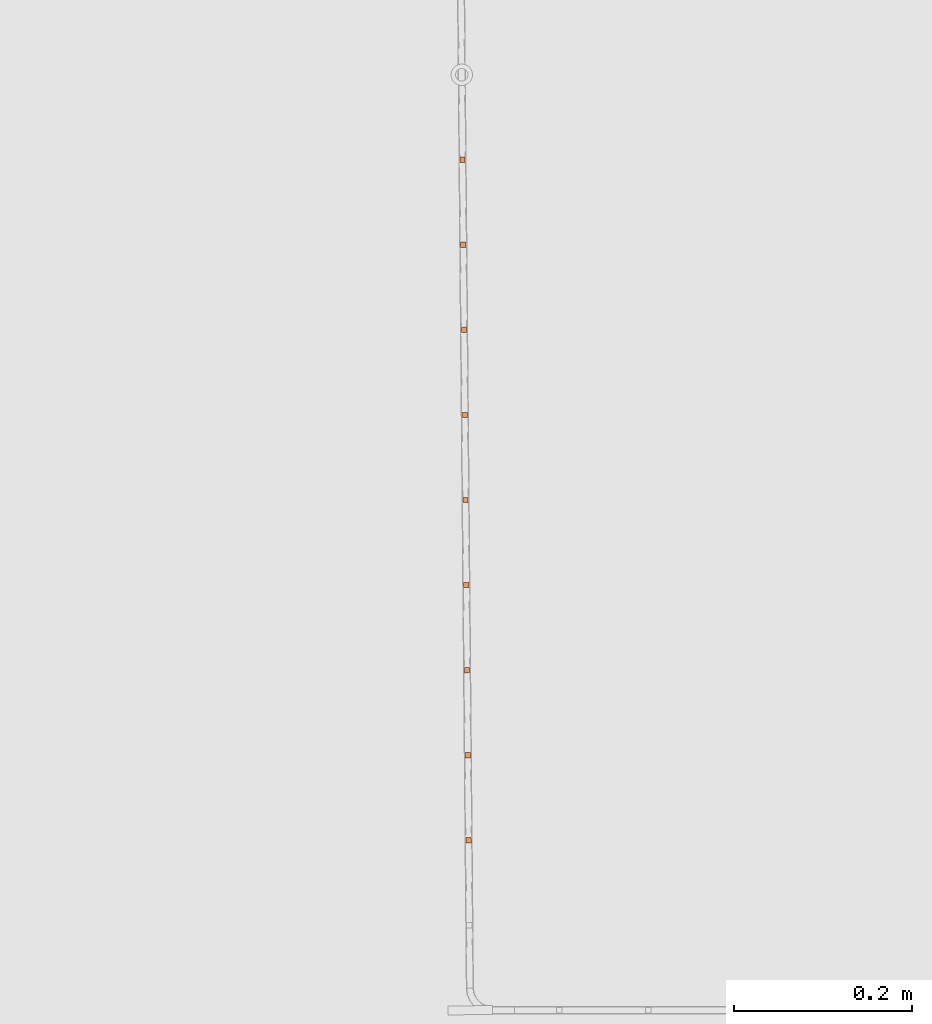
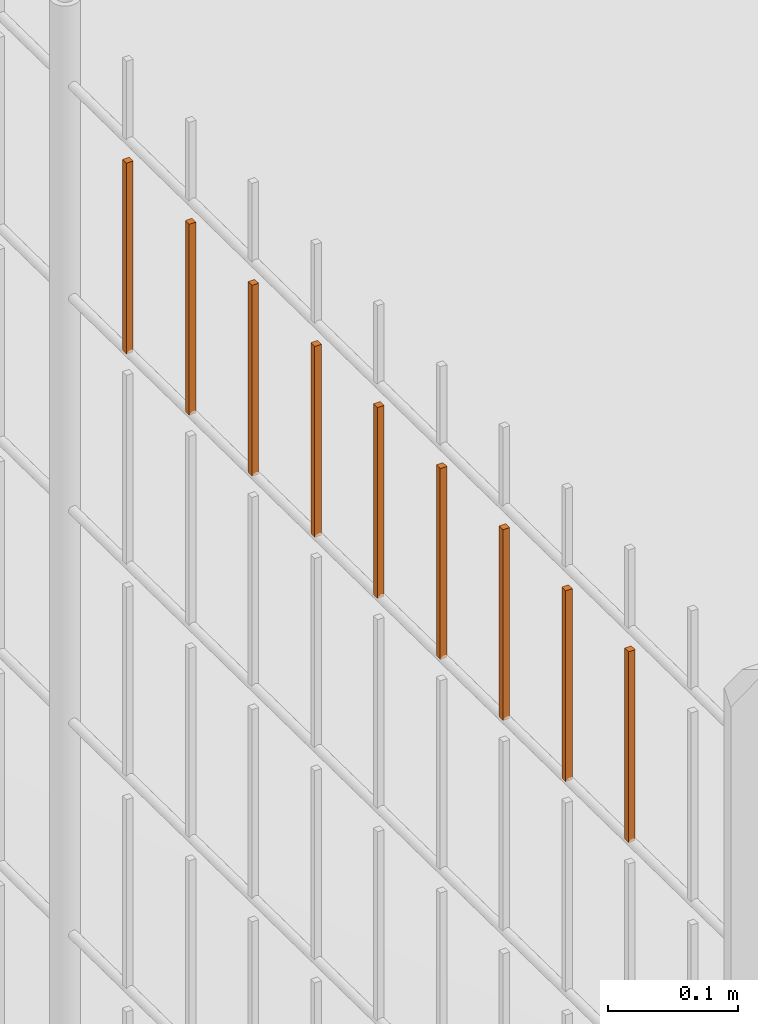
# One storey, part 241 of 1809: 9 proxies, 1 element without a shape of its own.
"""IFC2X3 building model written with IfcOpenShell, lengths in millimetres."""

from ifc_helpers import new_model, entity, si_unit, converted_unit, derived_unit, money_unit, direction, frame, origin_with_axes, place, context, subcontext, project, spatial, faceted_brep, source, transform, mapped, material, type_object, element, aggregate, save


model = new_model("IFC2X3")

# Units and contexts
model_context = context("Model", 3, precision=0.01, world=origin_with_axes(), true_north=direction((0.0, 1.0)))
body_context = subcontext(model_context, "Body", "Model", "MODEL_VIEW")
ifc_project = project(units=[si_unit("LENGTHUNIT", "METRE", prefix="MILLI"), si_unit("AREAUNIT", "SQUARE_METRE"), si_unit("VOLUMEUNIT", "CUBIC_METRE"), converted_unit("PLANEANGLEUNIT", "DEGREE", entity("IfcPlaneAngleMeasure", 0.0174532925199), si_unit("PLANEANGLEUNIT", "RADIAN"), dimensions=[0, 0, 0, 0, 0, 0, 0]), si_unit("SOLIDANGLEUNIT", "STERADIAN"), money_unit("EUR"), converted_unit("TIMEUNIT", "Year", entity("IfcTimeMeasure", 31556926.0), si_unit("TIMEUNIT", "SECOND"), dimensions=[0, 0, 1, 0, 0, 0, 0]), si_unit("MASSUNIT", "GRAM", prefix="KILO"), si_unit("THERMODYNAMICTEMPERATUREUNIT", "DEGREE_CELSIUS"), si_unit("LUMINOUSINTENSITYUNIT", "LUMEN"), si_unit("ENERGYUNIT", "JOULE", prefix="MEGA"), derived_unit("THERMALCONDUCTANCEUNIT", [(si_unit("POWERUNIT", "WATT"), 1), (si_unit("LENGTHUNIT", "METRE"), -1), (si_unit("THERMODYNAMICTEMPERATUREUNIT", "KELVIN"), -1)]), derived_unit("SPECIFICHEATCAPACITYUNIT", [(si_unit("ENERGYUNIT", "JOULE"), 1), (si_unit("MASSUNIT", "GRAM", prefix="KILO"), -1), (si_unit("THERMODYNAMICTEMPERATUREUNIT", "KELVIN"), -1)]), derived_unit("MASSDENSITYUNIT", [(si_unit("MASSUNIT", "GRAM", prefix="KILO"), 1), (si_unit("VOLUMEUNIT", "CUBIC_METRE"), -1)])], contexts=[model_context])

# Site, building, storey
site_placement = place(None, origin_with_axes())
site = spatial("IfcSite", under=ifc_project, at=site_placement, Name="Politse- ja Piirivalveameti ning Päästeameti ühishoone", CompositionType="ELEMENT")
building_placement = place(site_placement, origin_with_axes())
building = spatial("IfcBuilding", under=site, at=building_placement, Name="Politse- ja Piirivalveameti ning Päästeameti ühishoone", CompositionType="ELEMENT")
storey_placement = place(building_placement, origin_with_axes())
storey = spatial("IfcBuildingStorey", under=building, at=storey_placement, Name="Esimene korrus", CompositionType="ELEMENT", Elevation=0.0)

# Proxies
building_element_proxy_type_1 = type_object("IfcBuildingElementProxyType", Name="Railing Type", PredefinedType="NOTDEFINED")
proxy_1_placement = place(storey_placement, frame((-16775.8601056, 25156.7555964, 0.0), z_axis=(0.0, 0.0, 1.0), x_axis=(1.0, 0.0, 0.0)))
proxy_1 = element("IfcBuildingElementProxy", 1, at=proxy_1_placement, inside=storey, type_object=building_element_proxy_type_1, Name="KENNELI PIIRE")
ifc_material = material(Name="Teras - Konstruktsioon")
building_element_proxy_type_2 = type_object("IfcBuildingElementProxyType", Name="IfcBuildingElementProxy", PredefinedType="NOTDEFINED")
shared_shape_1 = source(origin_with_axes(), body_context, "Body", "Brep", [
    faceted_brep([(3.0, 3.0, 0.0), (-3.0, 3.0, 0.0), (-3.0, 3.0, 180.000012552), (3.0, 3.0, 180.000012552), (3.0, -3.0, 0.0), (-3.0, -3.0, 0.0), (-3.0, -3.0, 180.000012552), (3.0, -3.0, 180.000012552)], [[[0, 1, 2, 3]], [[0, 4, 5, 1]], [[1, 5, 6, 2]], [[3, 2, 6, 7]], [[4, 0, 3, 7]], [[5, 4, 7, 6]]]),
])
proxy_2_placement = place(proxy_1_placement, frame((-4889.90624565, -15209.9644821, 2203.99998745), z_axis=(0.0, 0.0, 1.0), x_axis=(1.0, 0.0, 0.0)))
proxy_2 = element("IfcBuildingElementProxy", 2, at=proxy_2_placement, type_object=building_element_proxy_type_2, material=ifc_material, Name="BALUSTER - 001", context=body_context, shape_type="MappedRepresentation", body=[
    mapped(shared_shape_1, transform((0.0, 0.0, 0.0), x_axis=(-0.999960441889, -0.00889464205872, 0.0), y_axis=(0.00889464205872, -0.999960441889, 0.0), z_axis=(0.0, 0.0, 1.0))),
])
shared_shape_2 = source(origin_with_axes(), body_context, "Body", "Brep", [
    faceted_brep([(3.0, 3.0, 0.0), (-3.0, 3.0, 0.0), (-3.0, 3.0, 180.000012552), (3.0, 3.0, 180.000012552), (3.0, -3.0, 0.0), (-3.0, -3.0, 0.0), (-3.0, -3.0, 180.000012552), (3.0, -3.0, 180.000012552)], [[[0, 1, 2, 3]], [[0, 4, 5, 1]], [[1, 5, 6, 2]], [[3, 2, 6, 7]], [[4, 0, 3, 7]], [[5, 4, 7, 6]]]),
])
proxy_3_placement = place(proxy_1_placement, frame((-4890.75510065, -15114.5338379, 2203.99998745), z_axis=(0.0, 0.0, 1.0), x_axis=(1.0, 0.0, 0.0)))
proxy_3 = element("IfcBuildingElementProxy", 3, at=proxy_3_placement, type_object=building_element_proxy_type_2, material=ifc_material, Name="BALUSTER - 001", context=body_context, shape_type="MappedRepresentation", body=[
    mapped(shared_shape_2, transform((0.0, 0.0, 0.0), x_axis=(-0.999960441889, -0.00889464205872, 0.0), y_axis=(0.00889464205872, -0.999960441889, 0.0), z_axis=(0.0, 0.0, 1.0))),
])
proxy_4_placement = place(proxy_1_placement, frame((-4889.05739065, -15305.3951263, 2203.99998745), z_axis=(0.0, 0.0, 1.0), x_axis=(1.0, 0.0, 0.0)))
proxy_4 = element("IfcBuildingElementProxy", 4, at=proxy_4_placement, type_object=building_element_proxy_type_2, material=ifc_material, Name="BALUSTER - 001", context=body_context, shape_type="MappedRepresentation", body=[
    mapped(shared_shape_2, transform((0.0, 0.0, 0.0), x_axis=(-0.999960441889, -0.00889464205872, 0.0), y_axis=(0.00889464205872, -0.999960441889, 0.0), z_axis=(0.0, 0.0, 1.0))),
])
proxy_5_placement = place(proxy_1_placement, frame((-4888.20853565, -15400.8257705, 2203.99998745), z_axis=(0.0, 0.0, 1.0), x_axis=(1.0, 0.0, 0.0)))
proxy_5 = element("IfcBuildingElementProxy", 5, at=proxy_5_placement, type_object=building_element_proxy_type_2, material=ifc_material, Name="BALUSTER - 001", context=body_context, shape_type="MappedRepresentation", body=[
    mapped(shared_shape_2, transform((0.0, 0.0, 0.0), x_axis=(-0.999960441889, -0.00889464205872, 0.0), y_axis=(0.00889464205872, -0.999960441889, 0.0), z_axis=(0.0, 0.0, 1.0))),
])
proxy_6_placement = place(proxy_1_placement, frame((-4887.35968065, -15496.2564146, 2203.99998745), z_axis=(0.0, 0.0, 1.0), x_axis=(1.0, 0.0, 0.0)))
proxy_6 = element("IfcBuildingElementProxy", 6, at=proxy_6_placement, type_object=building_element_proxy_type_2, material=ifc_material, Name="BALUSTER - 001", context=body_context, shape_type="MappedRepresentation", body=[
    mapped(shared_shape_2, transform((0.0, 0.0, 0.0), x_axis=(-0.999960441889, -0.00889464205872, 0.0), y_axis=(0.00889464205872, -0.999960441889, 0.0), z_axis=(0.0, 0.0, 1.0))),
])
proxy_7_placement = place(proxy_1_placement, frame((-4886.51082565, -15591.6870588, 2203.99998745), z_axis=(0.0, 0.0, 1.0), x_axis=(1.0, 0.0, 0.0)))
proxy_7 = element("IfcBuildingElementProxy", 7, at=proxy_7_placement, type_object=building_element_proxy_type_2, material=ifc_material, Name="BALUSTER - 001", context=body_context, shape_type="MappedRepresentation", body=[
    mapped(shared_shape_2, transform((0.0, 0.0, 0.0), x_axis=(-0.999960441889, -0.00889464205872, 0.0), y_axis=(0.00889464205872, -0.999960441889, 0.0), z_axis=(0.0, 0.0, 1.0))),
])
proxy_8_placement = place(proxy_1_placement, frame((-4885.66197065, -15687.117703, 2203.99998745), z_axis=(0.0, 0.0, 1.0), x_axis=(1.0, 0.0, 0.0)))
proxy_8 = element("IfcBuildingElementProxy", 8, at=proxy_8_placement, type_object=building_element_proxy_type_2, material=ifc_material, Name="BALUSTER - 001", context=body_context, shape_type="MappedRepresentation", body=[
    mapped(shared_shape_2, transform((0.0, 0.0, 0.0), x_axis=(-0.999960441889, -0.00889464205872, 0.0), y_axis=(0.00889464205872, -0.999960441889, 0.0), z_axis=(0.0, 0.0, 1.0))),
])
proxy_9_placement = place(proxy_1_placement, frame((-4884.81311565, -15782.5483472, 2203.99998745), z_axis=(0.0, 0.0, 1.0), x_axis=(1.0, 0.0, 0.0)))
proxy_9 = element("IfcBuildingElementProxy", 9, at=proxy_9_placement, type_object=building_element_proxy_type_2, material=ifc_material, Name="BALUSTER - 001", context=body_context, shape_type="MappedRepresentation", body=[
    mapped(shared_shape_2, transform((0.0, 0.0, 0.0), x_axis=(-0.999960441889, -0.00889464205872, 0.0), y_axis=(0.00889464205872, -0.999960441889, 0.0), z_axis=(0.0, 0.0, 1.0))),
])
proxy_10_placement = place(proxy_1_placement, frame((-4883.96426065, -15877.9789914, 2203.99998745), z_axis=(0.0, 0.0, 1.0), x_axis=(1.0, 0.0, 0.0)))
proxy_10 = element("IfcBuildingElementProxy", 10, at=proxy_10_placement, type_object=building_element_proxy_type_2, material=ifc_material, Name="BALUSTER - 001", context=body_context, shape_type="MappedRepresentation", body=[
    mapped(shared_shape_2, transform((0.0, 0.0, 0.0), x_axis=(-0.999960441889, -0.00889464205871, 0.0), y_axis=(0.00889464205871, -0.999960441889, 0.0), z_axis=(0.0, 0.0, 1.0))),
])
aggregate(proxy_1, [proxy_3, proxy_2, proxy_4, proxy_5, proxy_6, proxy_7, proxy_8, proxy_9, proxy_10])

save(model, "model.ifc")
